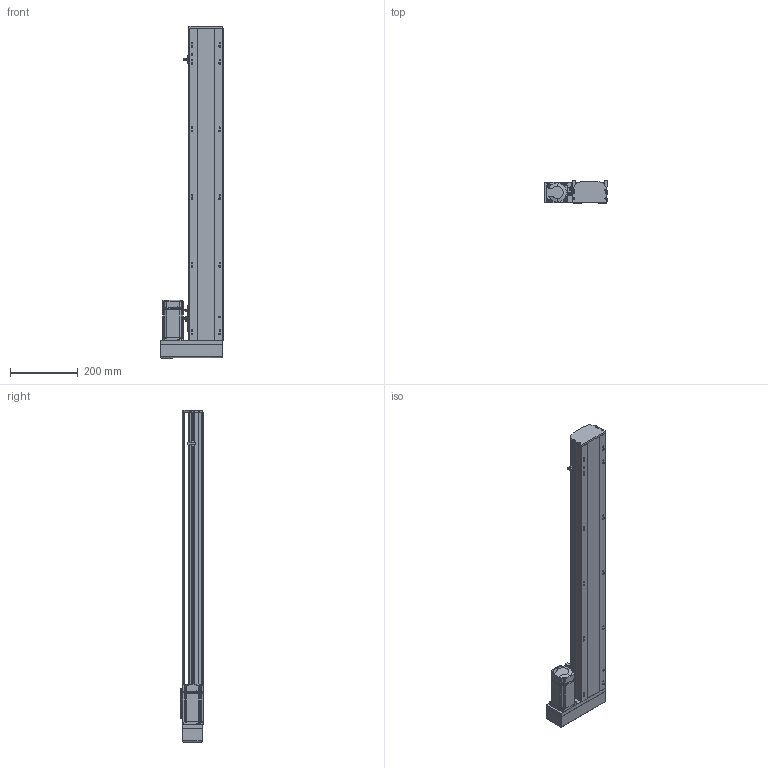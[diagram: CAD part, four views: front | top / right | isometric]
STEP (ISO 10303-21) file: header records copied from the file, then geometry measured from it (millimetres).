
FILE_DESCRIPTION (( 'STEP AP214' ), '1' );
FILE_NAME ('QTH10-750-BL-P20.STEP', '2021-11-13T14:30:40', ( '' ), ( '' ), 'SwSTEP 2.0', 'SolidWorks 2020', '' );
FILE_SCHEMA (( 'AUTOMOTIVE_DESIGN' ));
Length unit declared in the file: millimetre
Products named in the file (6): 葩璃 侂狟400W^QTH10-BL-P20; QTH10-750-BL-P20; 葩璃 QTH10-BL-001 菁釱MZ-102A-01^QTH10-BL-P20; 葩璃 QTH10-BL-002 奻裔MZ-102A-02^QTH10-BL-P20; 葩璃 pm-t65-672^QTH10-BL-P20; 葩璃 QTH10-BC-005 賑釱MZ-102A-03 ^QTH10-BL-P20
Assembly tree (7 placements, depth 2):
  QTH10-750-BL-P20
    葩璃 QTH10-BL-001 菁釱MZ-102A-01^QTH10-BL-P20
    葩璃 QTH10-BL-002 奻裔MZ-102A-02^QTH10-BL-P20
    葩璃 QTH10-BC-005 賑釱MZ-102A-03 ^QTH10-BL-P20
    葩璃 pm-t65-672^QTH10-BL-P20  x3
    葩璃 侂狟400W^QTH10-BL-P20
Bounding box: 187 x 66 x 981.5 mm (x, y, z)
Volume: 2616201.9 mm3; surface area: 688009.7 mm2
Topology: 12 solids, 12 shells, 1279 faces, 3432 edges, 2230 vertices
Faces by surface type: plane 747, cylinder 442, cone 64, bspline 26
Entity records: 35048 total; most frequent: CARTESIAN_POINT 6879, DIRECTION 5673, ORIENTED_EDGE 5512, EDGE_CURVE 2756, AXIS2_PLACEMENT_3D 1962, VERTEX_POINT 1806, LINE 1749, VECTOR 1749
